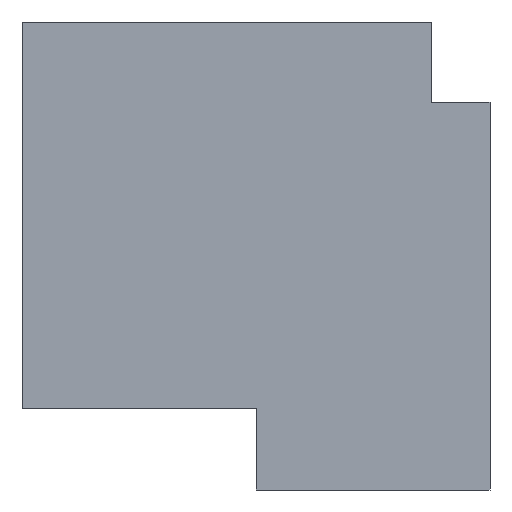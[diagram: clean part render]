
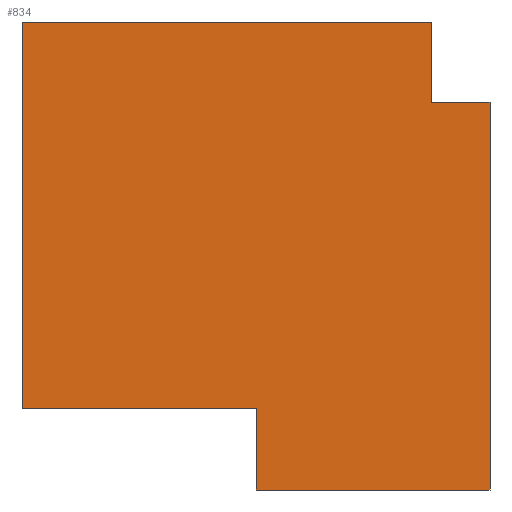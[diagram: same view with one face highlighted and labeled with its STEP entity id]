
A CAD part, front view. The second image highlights one B-rep face of the part: STEP entity #834.
In plain terms, the highlighted planar face has unit normal (0, -1, 0).
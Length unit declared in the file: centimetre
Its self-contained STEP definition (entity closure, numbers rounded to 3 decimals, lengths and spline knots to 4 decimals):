
#3 = CARTESIAN_POINT ( 'NONE',  ( 1000., 0., 828.8634 ) ) ;
#6 = CARTESIAN_POINT ( 'NONE',  ( 0., 0., 1000. ) ) ;
#9 = DIRECTION ( 'NONE',  ( 0., 0., 1. ) ) ;
#12 = EDGE_CURVE ( 'NONE', #164, #425, #661, .T. ) ;
#31 = CARTESIAN_POINT ( 'NONE',  ( 875.8423, 0., 828.8634 ) ) ;
#33 = VERTEX_POINT ( 'NONE', #59 ) ;
#34 = CARTESIAN_POINT ( 'NONE',  ( 500.9283, 0., 174.195 ) ) ;
#40 = VECTOR ( 'NONE', #395, 100. ) ;
#43 = ORIENTED_EDGE ( 'NONE', *, *, #12, .F. ) ;
#58 = CARTESIAN_POINT ( 'NONE',  ( 0., 0., 0. ) ) ;
#59 = CARTESIAN_POINT ( 'NONE',  ( 1000., 0., 0. ) ) ;
#61 = VECTOR ( 'NONE', #207, 100. ) ;
#62 = LINE ( 'NONE', #186, #440 ) ;
#76 = CARTESIAN_POINT ( 'NONE',  ( 500.9283, 0., 174.195 ) ) ;
#80 = ORIENTED_EDGE ( 'NONE', *, *, #822, .F. ) ;
#104 = DIRECTION ( 'NONE',  ( 1., 0., 0. ) ) ;
#136 = LINE ( 'NONE', #348, #61 ) ;
#144 = LINE ( 'NONE', #76, #160 ) ;
#160 = VECTOR ( 'NONE', #206, 100. ) ;
#162 = VERTEX_POINT ( 'NONE', #421 ) ;
#164 = VERTEX_POINT ( 'NONE', #828 ) ;
#176 = VERTEX_POINT ( 'NONE', #3 ) ;
#186 = CARTESIAN_POINT ( 'NONE',  ( 0., 0., 1000. ) ) ;
#187 = CARTESIAN_POINT ( 'NONE',  ( 875.8423, 0., 828.8634 ) ) ;
#189 = ORIENTED_EDGE ( 'NONE', *, *, #571, .F. ) ;
#206 = DIRECTION ( 'NONE',  ( 0., 0., 1. ) ) ;
#207 = DIRECTION ( 'NONE',  ( 1., 0., 0. ) ) ;
#253 = EDGE_CURVE ( 'NONE', #709, #164, #136, .T. ) ;
#270 = LINE ( 'NONE', #58, #40 ) ;
#310 = DIRECTION ( 'NONE',  ( -1., 0., 0. ) ) ;
#337 = ORIENTED_EDGE ( 'NONE', *, *, #253, .F. ) ;
#348 = CARTESIAN_POINT ( 'NONE',  ( 0., 0., 1000. ) ) ;
#355 = DIRECTION ( 'NONE',  ( 0., 1., 0. ) ) ;
#365 = ORIENTED_EDGE ( 'NONE', *, *, #568, .F. ) ;
#372 = ORIENTED_EDGE ( 'NONE', *, *, #702, .F. ) ;
#395 = DIRECTION ( 'NONE',  ( 1., 0., 0. ) ) ;
#401 = VECTOR ( 'NONE', #104, 100. ) ;
#405 = VECTOR ( 'NONE', #888, 100. ) ;
#421 = CARTESIAN_POINT ( 'NONE',  ( 0., 0., 174.195 ) ) ;
#425 = VERTEX_POINT ( 'NONE', #782 ) ;
#440 = VECTOR ( 'NONE', #608, 100. ) ;
#470 = CARTESIAN_POINT ( 'NONE',  ( 500.9283, 0., 174.195 ) ) ;
#500 = LINE ( 'NONE', #31, #401 ) ;
#531 = AXIS2_PLACEMENT_3D ( 'NONE', #6, #355, #9 ) ;
#541 = DIRECTION ( 'NONE',  ( 0., 0., -1. ) ) ;
#549 = PLANE ( 'NONE',  #531 ) ;
#567 = ORIENTED_EDGE ( 'NONE', *, *, #710, .T. ) ;
#568 = EDGE_CURVE ( 'NONE', #425, #176, #500, .T. ) ;
#571 = EDGE_CURVE ( 'NONE', #799, #162, #863, .T. ) ;
#576 = CARTESIAN_POINT ( 'NONE',  ( 500.9283, 0., 0. ) ) ;
#594 = LINE ( 'NONE', #875, #405 ) ;
#607 = VECTOR ( 'NONE', #541, 100. ) ;
#608 = DIRECTION ( 'NONE',  ( 0., 0., -1. ) ) ;
#620 = FACE_OUTER_BOUND ( 'NONE', #630, .T. ) ;
#630 = EDGE_LOOP ( 'NONE', ( #365, #43, #337, #567, #189, #80, #856, #372 ) ) ;
#634 = VERTEX_POINT ( 'NONE', #576 ) ;
#661 = LINE ( 'NONE', #187, #607 ) ;
#702 = EDGE_CURVE ( 'NONE', #176, #33, #594, .T. ) ;
#709 = VERTEX_POINT ( 'NONE', #814 ) ;
#710 = EDGE_CURVE ( 'NONE', #709, #162, #62, .T. ) ;
#770 = EDGE_CURVE ( 'NONE', #634, #33, #270, .T. ) ;
#782 = CARTESIAN_POINT ( 'NONE',  ( 875.8423, 0., 828.8634 ) ) ;
#799 = VERTEX_POINT ( 'NONE', #470 ) ;
#814 = CARTESIAN_POINT ( 'NONE',  ( 0., 0., 1000. ) ) ;
#822 = EDGE_CURVE ( 'NONE', #634, #799, #144, .T. ) ;
#828 = CARTESIAN_POINT ( 'NONE',  ( 875.8423, 0., 1000. ) ) ;
#834 = ADVANCED_FACE ( 'NONE', ( #620 ), #549, .F. ) ;
#843 = VECTOR ( 'NONE', #310, 100. ) ;
#856 = ORIENTED_EDGE ( 'NONE', *, *, #770, .T. ) ;
#863 = LINE ( 'NONE', #34, #843 ) ;
#875 = CARTESIAN_POINT ( 'NONE',  ( 1000., 0., 1000. ) ) ;
#888 = DIRECTION ( 'NONE',  ( 0., 0., -1. ) ) ;
